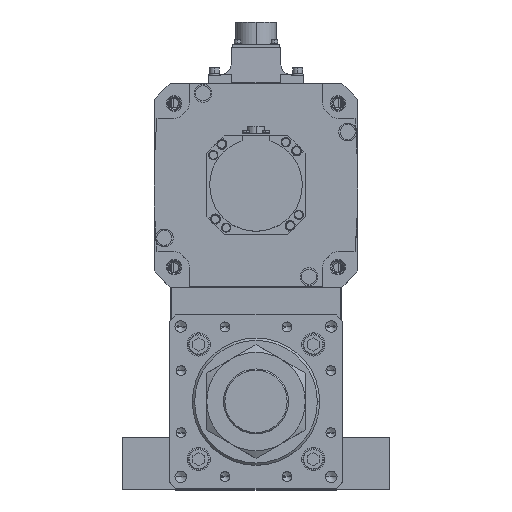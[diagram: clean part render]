
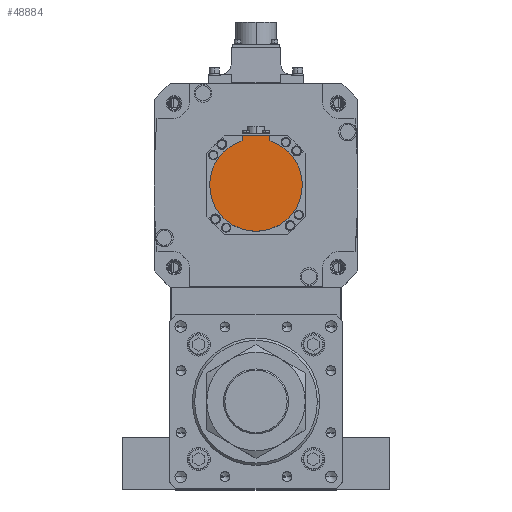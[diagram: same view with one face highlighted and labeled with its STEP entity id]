
A CAD part, top view. The second image highlights one B-rep face of the part: STEP entity #48884.
In plain terms, the highlighted planar face has unit normal (0, 0, 1) as drawn and (0, 0, -1) by its records, which use the part's own axes.
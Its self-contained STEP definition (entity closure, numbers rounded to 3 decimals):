
#874 = FACE_OUTER_BOUND ( 'NONE', #32599, .T. ) ;
#1993 = EDGE_CURVE ( 'NONE', #48010, #38984, #6104, .T. ) ;
#2872 = AXIS2_PLACEMENT_3D ( 'NONE', #18541, #22344, #47796 ) ;
#3677 = CARTESIAN_POINT ( 'NONE',  ( -12., -40.329, -162.5 ) ) ;
#4252 = VECTOR ( 'NONE', #34423, 1000. ) ;
#6090 = DIRECTION ( 'NONE',  ( 0., 0., 1. ) ) ;
#6104 = LINE ( 'NONE', #24244, #30938 ) ;
#7152 = VERTEX_POINT ( 'NONE', #23821 ) ;
#7771 = AXIS2_PLACEMENT_3D ( 'NONE', #22789, #31915, #10378 ) ;
#9406 = AXIS2_PLACEMENT_3D ( 'NONE', #21817, #6090, #31994 ) ;
#10378 = DIRECTION ( 'NONE',  ( 1., 0., 0. ) ) ;
#10676 = EDGE_CURVE ( 'NONE', #48010, #12690, #38805, .T. ) ;
#12690 = VERTEX_POINT ( 'NONE', #33864 ) ;
#14272 = PLANE ( 'NONE',  #2872 ) ;
#14339 = CIRCLE ( 'NONE', #9406, 40. ) ;
#14871 = CARTESIAN_POINT ( 'NONE',  ( 12., -42.5, -162.5 ) ) ;
#16229 = DIRECTION ( 'NONE',  ( 0., 0., 1. ) ) ;
#17040 = CARTESIAN_POINT ( 'NONE',  ( -40., 0., -162.5 ) ) ;
#18541 = CARTESIAN_POINT ( 'NONE',  ( 0., -1.249, -162.5 ) ) ;
#19553 = AXIS2_PLACEMENT_3D ( 'NONE', #32979, #16229, #24763 ) ;
#21392 = EDGE_CURVE ( 'NONE', #38984, #7152, #37960, .T. ) ;
#21817 = CARTESIAN_POINT ( 'NONE',  ( 0., 0., -162.5 ) ) ;
#22344 = DIRECTION ( 'NONE',  ( 0., 0., 1. ) ) ;
#22789 = CARTESIAN_POINT ( 'NONE',  ( 0., 0., -162.5 ) ) ;
#23821 = CARTESIAN_POINT ( 'NONE',  ( 40., 0., -162.5 ) ) ;
#23837 = VERTEX_POINT ( 'NONE', #43019 ) ;
#24070 = DIRECTION ( 'NONE',  ( 0., 1., 0. ) ) ;
#24134 = EDGE_CURVE ( 'NONE', #12690, #23837, #42981, .T. ) ;
#24244 = CARTESIAN_POINT ( 'NONE',  ( 12., -1.249, -162.5 ) ) ;
#24763 = DIRECTION ( 'NONE',  ( 1., 0., 0. ) ) ;
#24767 = VECTOR ( 'NONE', #24070, 1000. ) ;
#26076 = ORIENTED_EDGE ( 'NONE', *, *, #24134, .T. ) ;
#26096 = CIRCLE ( 'NONE', #19553, 40. ) ;
#29307 = ORIENTED_EDGE ( 'NONE', *, *, #36627, .F. ) ;
#30938 = VECTOR ( 'NONE', #32817, 1000. ) ;
#31915 = DIRECTION ( 'NONE',  ( 0., 0., 1. ) ) ;
#31994 = DIRECTION ( 'NONE',  ( 1., 0., 0. ) ) ;
#32599 = EDGE_LOOP ( 'NONE', ( #26076, #44350, #29307, #48715, #42414, #50688 ) ) ;
#32817 = DIRECTION ( 'NONE',  ( 0., 1., 0. ) ) ;
#32979 = CARTESIAN_POINT ( 'NONE',  ( 0., 0., -162.5 ) ) ;
#33864 = CARTESIAN_POINT ( 'NONE',  ( -12., -42.5, -162.5 ) ) ;
#34423 = DIRECTION ( 'NONE',  ( -1., 0., 0. ) ) ;
#36176 = EDGE_CURVE ( 'NONE', #43708, #23837, #14339, .T. ) ;
#36627 = EDGE_CURVE ( 'NONE', #7152, #43708, #26096, .T. ) ;
#37960 = CIRCLE ( 'NONE', #7771, 40. ) ;
#38805 = LINE ( 'NONE', #50523, #4252 ) ;
#38984 = VERTEX_POINT ( 'NONE', #41724 ) ;
#41724 = CARTESIAN_POINT ( 'NONE',  ( 12., -38.158, -162.5 ) ) ;
#42414 = ORIENTED_EDGE ( 'NONE', *, *, #1993, .F. ) ;
#42981 = LINE ( 'NONE', #3677, #24767 ) ;
#43019 = CARTESIAN_POINT ( 'NONE',  ( -12., -38.158, -162.5 ) ) ;
#43708 = VERTEX_POINT ( 'NONE', #17040 ) ;
#44350 = ORIENTED_EDGE ( 'NONE', *, *, #36176, .F. ) ;
#47796 = DIRECTION ( 'NONE',  ( 1., 0., 0. ) ) ;
#48010 = VERTEX_POINT ( 'NONE', #14871 ) ;
#48715 = ORIENTED_EDGE ( 'NONE', *, *, #21392, .F. ) ;
#48884 = ADVANCED_FACE ( 'NONE', ( #874 ), #14272, .F. ) ;
#50523 = CARTESIAN_POINT ( 'NONE',  ( 0., -42.5, -162.5 ) ) ;
#50688 = ORIENTED_EDGE ( 'NONE', *, *, #10676, .T. ) ;
